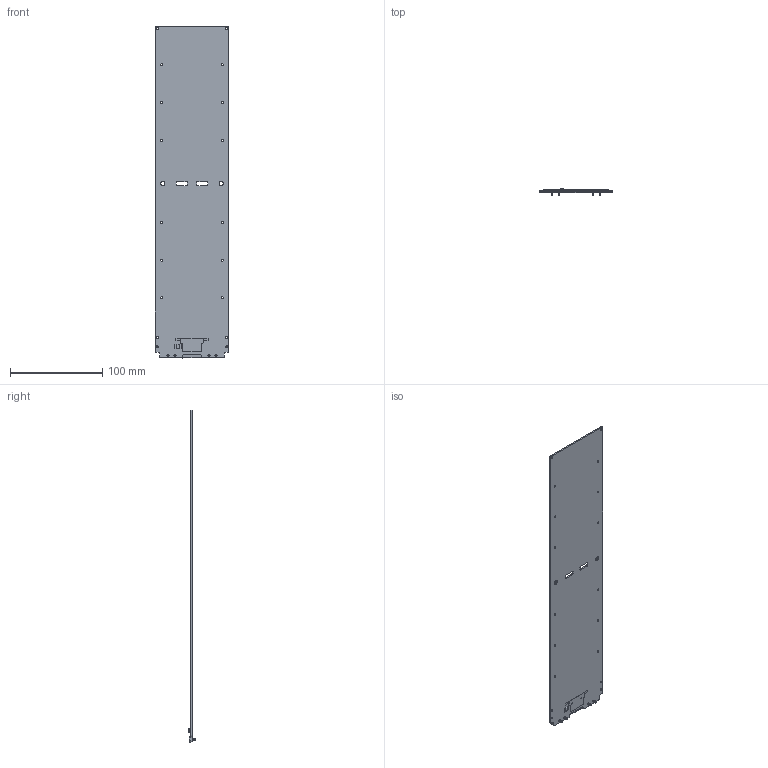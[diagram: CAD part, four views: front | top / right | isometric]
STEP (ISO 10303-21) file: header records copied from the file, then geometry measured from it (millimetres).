
FILE_DESCRIPTION (( 'STEP AP214' ), '1' );
FILE_NAME ('710-01270 SUPERNOVA 8 Cell Side Panel Opt 00.STEP', '2017-02-10T02:33:29', ( '' ), ( '' ), 'SwSTEP 2.0', 'SolidWorks 2014', '' );
FILE_SCHEMA (( 'AUTOMOTIVE_DESIGN' ));
Length unit declared in the file: inch
Products named in the file (2): 710-01270 SUPERNOVA 8 Cell Side Panel Opt 00
Bounding box: 80 x 6.57 x 360.17 mm (x, y, z)
Volume: 50797.5 mm3; surface area: 62538 mm2
Topology: 1 solids, 1 shells, 951 faces, 2439 edges, 1578 vertices
Faces by surface type: plane 481, cylinder 268, cone 200, bspline 2
Entity records: 31810 total; most frequent: CARTESIAN_POINT 5376, DIRECTION 5160, ORIENTED_EDGE 4878, EDGE_CURVE 2439, AXIS2_PLACEMENT_3D 1780, LINE 1600, VECTOR 1600, VERTEX_POINT 1578
